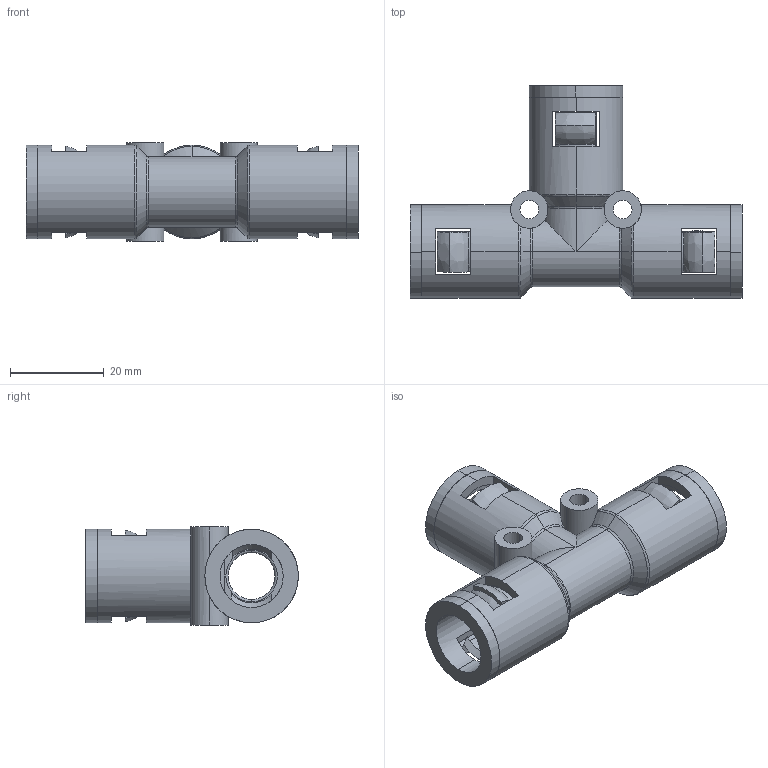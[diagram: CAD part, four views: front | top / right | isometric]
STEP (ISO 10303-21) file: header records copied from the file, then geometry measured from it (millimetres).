
FILE_DESCRIPTION (( 'STEP AP203' ), '1' );
FILE_NAME ('WQT-AD13.0-2X13.0.STEP', '2012-06-08T07:48:05', ( '迾輿躂瑞' ), ( 'WwW.YlmF.CoM' ), 'SwSTEP 2.0', 'SolidWorks 2010', '' );
FILE_SCHEMA (( 'CONFIG_CONTROL_DESIGN' ));
Length unit declared in the file: millimetre
Products named in the file (3): WQT-AD13.0-2X13.0; WQT-AD13.0-2x13.0-01; NSK-AD13.0
Assembly tree (4 placements, depth 2):
  WQT-AD13.0-2X13.0
    NSK-AD13.0  x3
    WQT-AD13.0-2x13.0-01
Bounding box: 71 x 45.5 x 21 mm (x, y, z)
Volume: 14093.3 mm3; surface area: 16307.4 mm2
Topology: 10 solids, 10 shells, 209 faces, 589 edges, 383 vertices
Faces by surface type: plane 91, cylinder 67, torus 24, cone 15, bspline 12
Entity records: 5632 total; most frequent: CARTESIAN_POINT 1606, ORIENTED_EDGE 794, DIRECTION 790, EDGE_CURVE 397, AXIS2_PLACEMENT_3D 324, VERTEX_POINT 255, CIRCLE 182, EDGE_LOOP 152
